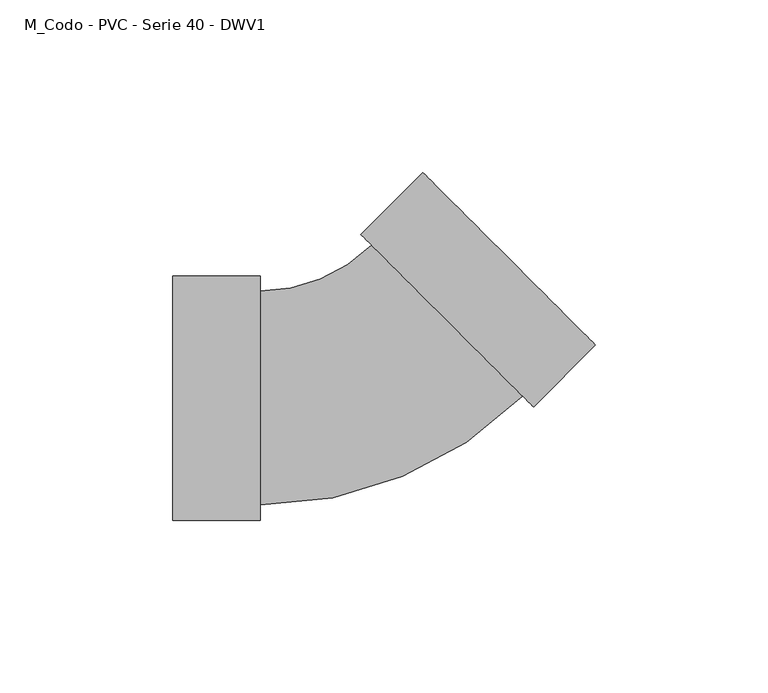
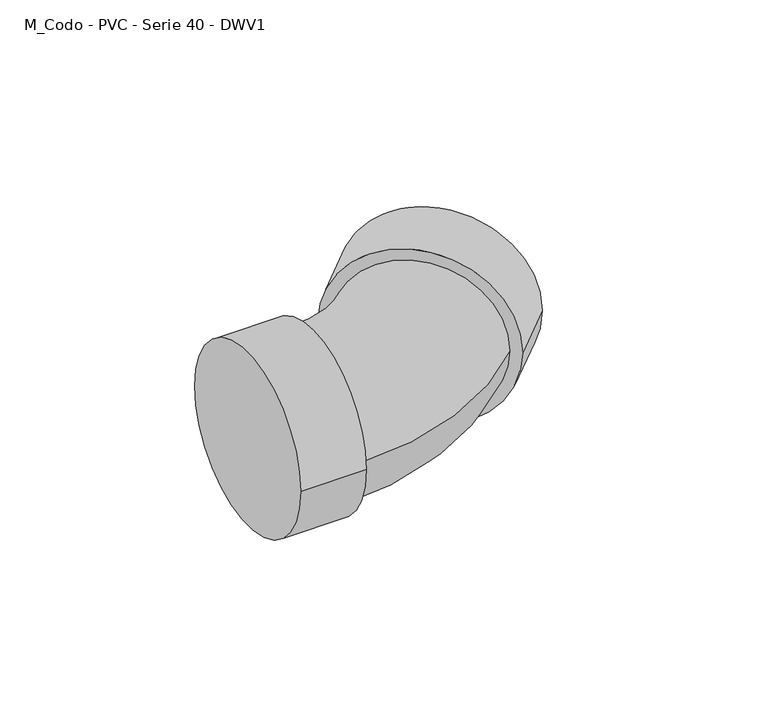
"""IFC4 building model written with IfcOpenShell, lengths in millimetres: pipe fitting geometry, M_Codo - PVC - Serie 40 - DWV1 : Estándar 2."""

from ifc_helpers import new_model, si_unit, point, frame, origin, place, context, project, spatial, circle_curve, ellipse_curve, trimmed, source, transform, mapped, element, save
from ifc_brep_helpers import plane_surface, cylinder_surface, revolved_surface, advanced_brep


def m_codo_pvc_serie_40_dwv1_1ad01535(model_context):
    return source(origin(), model_context, "Body", "AdvancedBrep", [
        advanced_brep(
        [(-57.1420625, -35.4191094, 0.0), (-57.1420625, 35.4191094, 0.0), (-31.7420625, -35.4191094, 0.0), (-31.7420625, 35.4191094, 0.0), (-31.7420625, -30.9800625, 0.0), (-31.7420625, 30.9800625, 0.0), (0.5388002, 44.3512401, 0.0), (44.3512397, 0.5388305, 0.0), (47.490121, -2.6000486, 0.0), (-2.600081, 47.4901192, 0.0), (65.4506271, 15.3604698, 0.0), (15.3604251, 65.4506376, 0.0)],
        [
            (0, 1, circle_curve(frame((-57.1420625, 0.0, 0.0), z_axis=(-1.0, 0.0, 0.0), x_axis=(0.0, 1.0, 0.0)), 35.4191094)),
            (1, 0, circle_curve(frame((-57.1420625, 0.0, 0.0), z_axis=(-1.0, 0.0, 0.0), x_axis=(0.0, 1.0, 0.0)), 35.4191094)),
            (2, 3, circle_curve(frame((-31.7420625, 0.0, 0.0), z_axis=(1.0, 0.0, 0.0), x_axis=(0.0, 1.0, 0.0)), 35.4191094)),
            (3, 2, circle_curve(frame((-31.7420625, 0.0, 0.0), z_axis=(1.0, 0.0, 0.0), x_axis=(0.0, 1.0, 0.0)), 35.4191094)),
            (4, 5, circle_curve(frame((-31.7420625, 0.0, 0.0), z_axis=(-1.0, 0.0, 0.0), x_axis=(0.0, 1.0, 0.0)), 30.9800625)),
            (5, 4, circle_curve(frame((-31.7420625, 0.0, 0.0), z_axis=(-1.0, 0.0, 0.0), x_axis=(0.0, 1.0, 0.0)), 30.9800625)),
            (0, 2),
            (3, 1),
            (6, 5, circle_curve(frame((-31.7420625, 76.6320808, 0.0), z_axis=(0.0, 0.0, -1.0), x_axis=(0.0, -1.0, 0.0)), 45.6520183)),
            (4, 7, circle_curve(frame((-31.7420625, 76.6320808, 0.0), z_axis=(0.0, 0.0, 1.0), x_axis=(0.0, -1.0, 0.0)), 107.6121433)),
            (7, 6, circle_curve(frame((22.44502, 22.4450353, 0.0), z_axis=(-0.7071065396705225, -0.70710702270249, 0.0), x_axis=(-0.70710702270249, 0.7071065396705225, 0.0)), 30.9800625)),
            (6, 7, circle_curve(frame((22.44502, 22.4450353, 0.0), z_axis=(-0.7071065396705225, -0.70710702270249, 0.0), x_axis=(-0.70710702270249, 0.7071065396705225, 0.0)), 30.9800625)),
            (8, 9, circle_curve(frame((22.44502, 22.4450353, 0.0), z_axis=(-0.7071065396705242, -0.7071070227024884, 0.0), x_axis=(-0.7071070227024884, 0.7071065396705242, 0.0)), 35.4191094)),
            (9, 8, circle_curve(frame((22.44502, 22.4450353, 0.0), z_axis=(-0.7071065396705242, -0.7071070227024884, 0.0), x_axis=(-0.7071070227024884, 0.7071065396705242, 0.0)), 35.4191094)),
            (10, 11, circle_curve(frame((40.4055261, 40.4055537, 0.0), z_axis=(0.7071065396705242, 0.7071070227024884, 0.0), x_axis=(-0.7071070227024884, 0.7071065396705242, 0.0)), 35.4191094)),
            (11, 10, circle_curve(frame((40.4055261, 40.4055537, 0.0), z_axis=(0.7071065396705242, 0.7071070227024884, 0.0), x_axis=(-0.7071070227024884, 0.7071065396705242, 0.0)), 35.4191094)),
            (8, 10),
            (11, 9),
        ],
        [
            plane_surface(frame((-57.1420625, 0.0, 0.0), z_axis=(-1.0, 0.0, 0.0), x_axis=(0.0, 0.0, 1.0))),
            plane_surface(frame((-31.7420625, 0.0, 0.0), z_axis=(1.0, 0.0, 0.0), x_axis=(0.0, 0.0, 1.0))),
            cylinder_surface(frame((-57.1420625, 0.0, 0.0), z_axis=(-1.0, 0.0, 0.0), x_axis=(0.0, 1.0, 0.0)), 35.4191094),
            revolved_surface(trimmed(ellipse_curve(frame((-31.7420625, 0.0, 0.0), z_axis=(-1.0, 0.0, 0.0), x_axis=(0.0, 1.0, 0.0)), 30.9800625, 30.9800625), [point((-31.7420625, -30.9800625, 0.0))], [point((-31.7420625, 30.9800625, 0.0))], True, "CARTESIAN"), (-31.7420625, 76.6320808, 0.0), (0.0, 0.0, 1.0)),
            revolved_surface(trimmed(ellipse_curve(frame((-31.7420625, 0.0, 0.0), z_axis=(-1.0, 0.0, 0.0), x_axis=(0.0, 1.0, 0.0)), 30.9800625, 30.9800625), [point((-31.7420625, 30.9800625, 0.0))], [point((-31.7420625, -30.9800625, 0.0))], True, "CARTESIAN"), (-31.7420625, 76.6320808, 0.0), (0.0, 0.0, 1.0)),
            plane_surface(frame((22.44502, 22.4450353, 0.0), z_axis=(-0.7071065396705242, -0.7071070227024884, 0.0), x_axis=(0.0, 0.0, 1.0))),
            plane_surface(frame((40.4055261, 40.4055537, 0.0), z_axis=(0.7071065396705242, 0.7071070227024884, 0.0), x_axis=(0.0, 0.0, 1.0))),
            cylinder_surface(frame((22.44502, 22.4450353, 0.0), z_axis=(-0.7071065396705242, -0.7071070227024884, 0.0), x_axis=(-0.7071070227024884, 0.7071065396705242, 0.0)), 35.4191094),
        ],
        [
            (0, [[1, 2]]),
            (1, [[3, 4], [5, 6]]),
            (2, [[-1, 7, -4, 8]]),
            (2, [[-2, -8, -3, -7]]),
            (3, [[9, -5, 10, 11]]),
            (4, [[-9, 12, -10, -6]]),
            (5, [[13, 14], [-11, -12]]),
            (6, [[15, 16]]),
            (7, [[-13, 17, -16, 18]]),
            (7, [[-14, -18, -15, -17]]),
        ],
    ),
    ])


if __name__ == "__main__":
    model = new_model("IFC4")
    model_context = context("Model", 3, world=origin())
    ifc_project = project(units=[si_unit("LENGTHUNIT", "METRE", prefix="MILLI")], contexts=[model_context])
    site = spatial("IfcSite", under=ifc_project)
    building = spatial("IfcBuilding", under=site)
    placement = place(None, origin())
    m_codo_pvc_serie_40_dwv1_shape = m_codo_pvc_serie_40_dwv1_1ad01535(model_context)
    element("IfcPipeFitting", 1, ObjectType="M_Codo - PVC - Serie 40 - DWV1 : Estándar 2", at=placement, inside=building, context=model_context, shape_type="MappedRepresentation", body=[
        mapped(m_codo_pvc_serie_40_dwv1_shape, transform((0.0, 0.0, 0.0), x_axis=(1.0, 0.0, 0.0), y_axis=(0.0, 1.0, 0.0), z_axis=(0.0, 0.0, 1.0))),
    ])
    save(model, "model.ifc")
